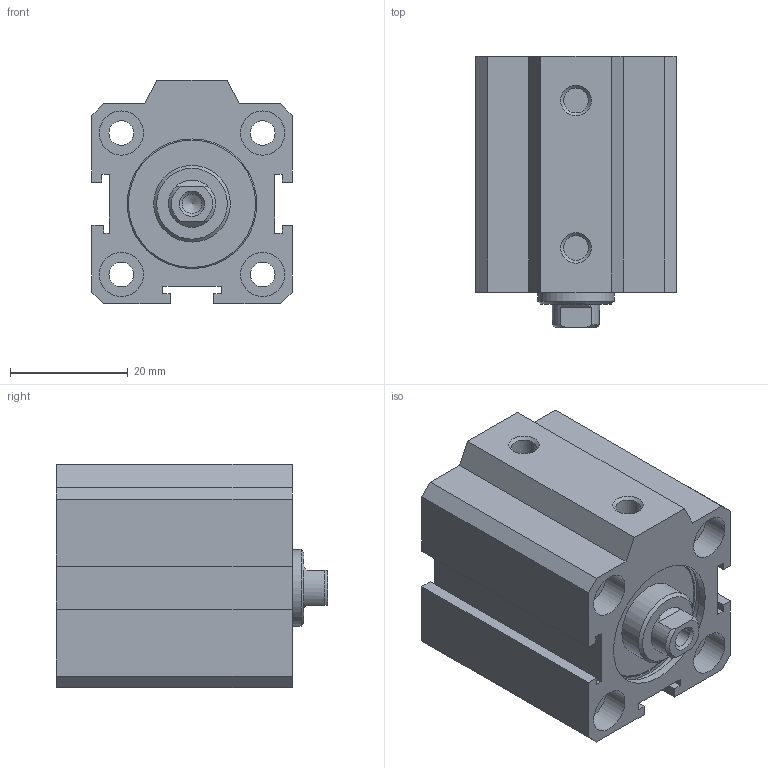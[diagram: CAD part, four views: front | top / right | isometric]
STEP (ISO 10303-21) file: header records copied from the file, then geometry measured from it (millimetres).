
FILE_DESCRIPTION(/* description */ ('Unknown'),/* implementation_level */ '2;1');
FILE_NAME(/* name */ 'WJ20-20',/* time_stamp */ '2026-07-17T16:16:43+08:00',/* author */ ('Unknown'),/* organization */ ('Unknown'),/* preprocessor_version */ 'ST-DEVELOPER v16.7',/* originating_system */ 'DEX',/* authorisation */ $);
FILE_SCHEMA (('CONFIG_CONTROL_DESIGN'));
Length unit declared in the file: millimetre
Products named in the file (5): WJ20-20; WJ20_本; WJ20_後; WJ20_前; WJ20_心軸活ionRefs
Assembly tree (4 placements, depth 2):
  WJ20-20
    WJ20_本
    WJ20_後
    WJ20_前
    WJ20_心軸活ionRefs
Bounding box: 34 x 46 x 38 mm (x, y, z)
Volume: 35135.8 mm3; surface area: 18107 mm2
Topology: 4 solids, 4 shells, 112 faces, 262 edges, 177 vertices
Faces by surface type: plane 69, cylinder 31, cone 12
Full cylindrical faces by diameter (mm): 3.3 x1, 4.2 x8, 7.5 x8, 8 x2, 13 x2, 19.5 x1, 20 x1, 22 x6, 23 x2
Entity records: 3647 total; most frequent: DIRECTION 504, CARTESIAN_POINT 486, ORIENTED_EDGE 400, EDGE_CURVE 200, AXIS2_PLACEMENT_3D 191, FACE_BOUND 185, EDGE_LOOP 184, VERTEX_POINT 157
